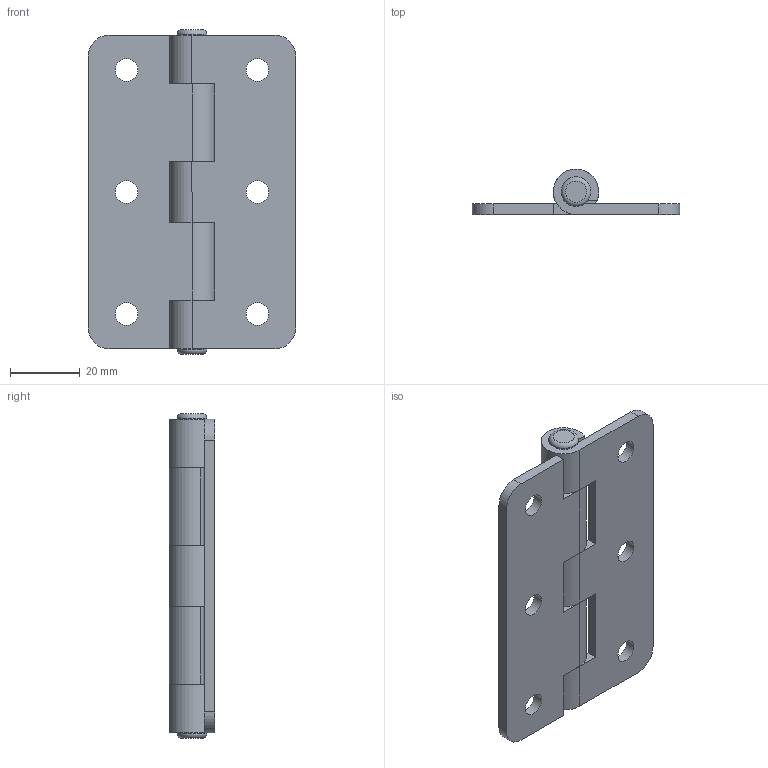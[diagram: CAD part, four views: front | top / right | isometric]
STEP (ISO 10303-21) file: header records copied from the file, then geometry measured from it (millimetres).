
FILE_DESCRIPTION(/* description */ (''),/* implementation_level */ '2;1');
FILE_NAME(/* name */ '\\NAS\db20\HD9060-30\DR_HD9060-30.stp',/* time_stamp */ '2017-08-16T17:49:20+09:00',/* author */ ('user'),/* organization */ (''),/* preprocessor_version */ 'ST-DEVELOPER v15.6',/* originating_system */ 'Autodesk Inventor 2015',/* authorisation */ '');
FILE_SCHEMA (('AUTOMOTIVE_DESIGN { 1 0 10303 214 3 1 1 }'));
Length unit declared in the file: millimetre
Products named in the file (3): DR_HD9060-30-P1; DR_HD9060-30-P2; DR_HD9060-30
Bounding box: 59.5 x 12.98 x 93 mm (x, y, z)
Volume: 24311.6 mm3; surface area: 18709.4 mm2
Topology: 3 solids, 3 shells, 57 faces, 151 edges, 102 vertices
Faces by surface type: plane 32, cylinder 23, torus 2
Full cylindrical faces by diameter (mm): 6.5 x6, 7 x1, 8.5 x2
Entity records: 1771 total; most frequent: DIRECTION 306, CARTESIAN_POINT 292, ORIENTED_EDGE 268, EDGE_CURVE 134, AXIS2_PLACEMENT_3D 110, VERTEX_POINT 96, LINE 86, VECTOR 86
